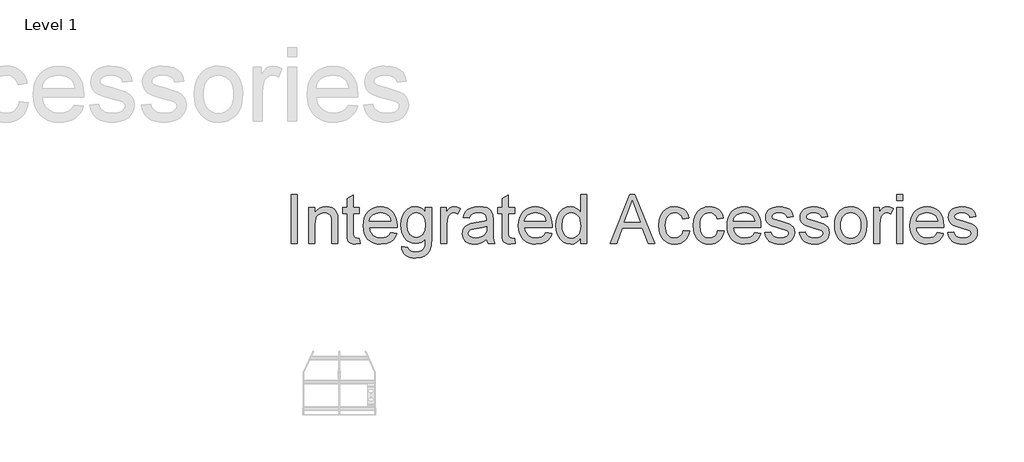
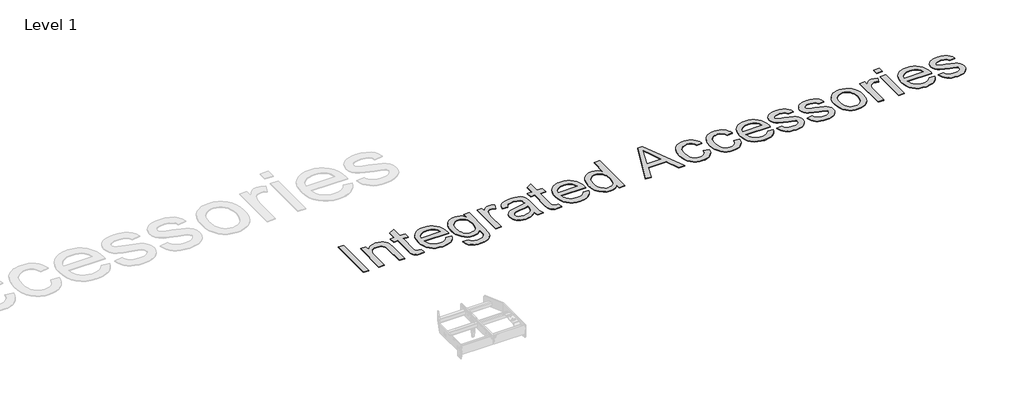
# One storey, part 15 of 31: 1 proxy.
"""IFC4 building model written with IfcOpenShell, lengths in millimetres."""

from ifc_helpers import new_model, si_unit, origin, origin_with_axes, place, context, project, spatial, polyline, outline, extrude, element, save

model = new_model("IFC4")

# Units and contexts
model_context = context("Model", 3, world=origin())
ifc_project = project(units=[si_unit("LENGTHUNIT", "METRE", prefix="MILLI")], contexts=[model_context])

# Site, building, storey
site = spatial("IfcSite", under=ifc_project)
building = spatial("IfcBuilding", under=site)
storey = spatial("IfcBuildingStorey", under=building, Name="Level 1", Elevation=0.0)

# Proxy
placement = place(None, origin())
element("IfcBuildingElementProxy", 1, Name="400mm Arial", ObjectType="400mm Arial", at=placement, inside=storey, context=model_context, shape_type="SweptSolid", body=[
    extrude(outline(polyline([(11176.305168, -13671.3757633), (11176.305168, -13269.5505227), (11226.5333231, -13269.5505227), (11226.5333231, -13671.3757633), (11176.305168, -13671.3757633)])), origin_with_axes(), (0.0, 0.0, 1.0), 5.0),
    extrude(outline(polyline([(11320.7111138, -13671.3757633), (11320.7111138, -13376.2853522), (11370.9392689, -13376.2853522), (11370.9392689, -13417.4881357), (11388.3891382, -13396.7150657), (11409.3461492, -13381.8771585), (11433.8103019, -13372.9744143), (11461.7815962, -13370.0068328), (11486.5400545, -13372.3980658), (11509.2138482, -13379.5717647), (11528.1229827, -13390.63275), (11541.5874637, -13404.6858422), (11550.7231999, -13421.6942532), (11556.6461001, -13441.6211946), (11559.2948504, -13490.1816179), (11559.2948504, -13671.3757633), (11509.0666954, -13671.3757633), (11509.0666954, -13496.9506466), (11507.6196928, -13470.9781778), (11503.2786853, -13452.5105016), (11495.2711205, -13439.2790125), (11482.8244464, -13429.0151049), (11466.8706305, -13422.4300171), (11448.3416407, -13420.2349879), (11418.9233438, -13425.1646066), (11393.8460545, -13439.9534629), (11383.8243358, -13452.0261237), (11376.6659653, -13468.5256311), (11372.370943, -13489.4519853), (11370.9392689, -13514.8051861), (11370.9392689, -13671.3757633), (11320.7111138, -13671.3757633)])), origin_with_axes(), (0.0, 0.0, 1.0), 5.0),
    extrude(outline(polyline([(11735.0933932, -13629.4862668), (11741.3719126, -13672.8472913), (11703.7988981, -13677.6542827), (11679.6903647, -13675.569618), (11661.7131979, -13669.3156241), (11649.0090063, -13659.6771158), (11640.7193987, -13647.4389081), (11636.157662, -13626.4205835), (11634.637083, -13590.4417243), (11634.637083, -13426.5135073), (11596.9659667, -13426.5135073), (11596.9659667, -13376.2853522), (11634.637083, -13376.2853522), (11634.637083, -13304.5728886), (11684.8652381, -13275.0442271), (11684.8652381, -13376.2853522), (11735.0933932, -13376.2853522), (11735.0933932, -13426.5135073), (11684.8652381, -13426.5135073), (11684.8652381, -13588.9701964), (11687.5139885, -13614.8690888), (11696.0979017, -13624.0416132), (11713.2166772, -13627.4261276), (11735.0933932, -13629.4862668)])), origin_with_axes(), (0.0, 0.0, 1.0), 5.0),
    extrude(outline(polyline([(11991.9240768, -13583.4764919), (12041.1712132, -13589.7550113), (12033.6204352, -13609.4796176), (12023.4270383, -13626.8620419), (12010.5910223, -13641.9022841), (11995.1123874, -13654.6003443), (11977.150549, -13664.6864423), (11956.8649226, -13671.8907981), (11909.3223061, -13677.6542827), (11878.1565697, -13675.1680135), (11850.3876105, -13667.7092061), (11826.0154283, -13655.2778603), (11805.0400232, -13637.8739763), (11788.1726337, -13615.9819319), (11776.1244984, -13590.0861051), (11768.8956172, -13560.1864959), (11766.4859901, -13526.2831044), (11768.9201426, -13491.2300816), (11776.2226002, -13460.3341254), (11788.3933629, -13433.5952357), (11805.4324307, -13411.0134126), (11826.3526535, -13393.0730339), (11850.1668813, -13380.2584778), (11876.8751141, -13372.5697441), (11906.477352, -13370.0068328), (11935.1261624, -13372.5636127), (11961.0342519, -13380.2339523), (11984.2016205, -13393.0178516), (12004.6282683, -13410.9153107), (12021.3025198, -13433.4480829), (12033.2126993, -13460.1379217), (12040.3588071, -13490.9848269), (12042.740843, -13525.9887988), (12042.4465374, -13539.5268562), (11816.7141452, -13539.5268562), (11819.6234786, -13559.5702936), (11825.408423, -13577.1243961), (11834.0689783, -13592.1891638), (11845.6051445, -13604.7645967), (11859.3792596, -13614.6790165), (11874.7536613, -13621.7607449), (11910.3033248, -13627.4261276), (11937.0360831, -13624.8019027), (11959.5504612, -13616.929228), (11977.8464591, -13603.3175942), (11991.9240768, -13583.4764919)]), holes=[polyline([(11816.7141452, -13489.2987011), (11992.5126879, -13489.2987011), (11985.7191338, -13462.7621466), (11972.4018055, -13443.7794356), (11958.7043326, -13433.4787397), (11943.1183987, -13426.1210998), (11925.644004, -13421.7065159), (11906.2811483, -13420.2349879), (11872.423742, -13424.9316147), (11844.4279222, -13439.0214951), (11824.9669646, -13460.9840502), (11816.7141452, -13489.2987011)])]), origin_with_axes(), (0.0, 0.0, 1.0), 5.0),
    extrude(outline(polyline([(12080.4119593, -13696.4898408), (12130.6401144, -13702.7683602), (12136.1828698, -13718.4646587), (12146.9250241, -13729.2558639), (12168.0414506, -13737.6435733), (12195.6816512, -13740.4394765), (12225.1612617, -13737.2756914), (12247.0870286, -13727.7843359), (12262.2928177, -13712.5785467), (12271.612495, -13692.2714606), (12275.0460602, -13633.704647), (12258.3319549, -13650.1857604), (12239.6803378, -13661.9579842), (12219.0912088, -13669.0213185), (12196.5645679, -13671.3757633), (12169.0255349, -13668.6350424), (12144.7790458, -13660.4128798), (12123.8251004, -13646.7092755), (12106.163699, -13627.5242295), (12092.1504607, -13604.5070793), (12082.1410047, -13579.3071626), (12076.1353311, -13551.9244794), (12074.1334399, -13522.3590298), (12077.7264208, -13481.8061712), (12088.5053632, -13444.5151996), (12106.0901226, -13412.9141362), (12130.1005541, -13389.4310022), (12159.7150548, -13374.8628752), (12194.1120213, -13370.0068328), (12217.6012867, -13372.7536851), (12238.9200483, -13380.9942418), (12258.0683062, -13394.7285029), (12275.0460602, -13413.9564685), (12275.0460602, -13376.2853522), (12325.2742153, -13376.2853522), (12325.2742153, -13631.0558966), (12321.84065, -13689.8802276), (12311.5399542, -13728.6182017), (12293.7957793, -13754.3086277), (12268.0317769, -13773.9903145), (12234.8120327, -13786.4983023), (12194.7006325, -13790.6676316), (12170.0923927, -13789.1991693), (12147.9673564, -13784.7937824), (12128.3255235, -13777.4514709), (12111.1668941, -13767.1722348), (12097.30694, -13753.9438114), (12087.5611328, -13737.7539379), (12081.9294726, -13718.6026144), (12080.4119593, -13696.4898408)]), holes=[polyline([(12124.361595, -13518.9254645), (12129.7204094, -13564.996553), (12136.4189274, -13582.633429), (12145.7968526, -13596.6711928), (12157.1981288, -13607.3796245), (12169.9666997, -13615.0285044), (12184.1025654, -13619.6178322), (12199.6057258, -13621.1476082), (12214.955602, -13619.6270293), (12229.0240226, -13615.0652926), (12241.8109877, -13607.462398), (12253.3164971, -13596.8183456), (12262.823181, -13582.9185375), (12269.6136694, -13565.548376), (12275.0460602, -13520.3969925), (12269.4542539, -13476.852027), (12262.464496, -13459.650478), (12252.6788349, -13445.4962182), (12240.9250052, -13434.44443), (12228.0307413, -13426.5502955), (12213.9960431, -13421.8138148), (12198.8209108, -13420.2349879), (12183.9002303, -13421.7892893), (12170.138378, -13426.4521936), (12146.0911582, -13445.1038108), (12136.5844743, -13459.0434727), (12129.7939858, -13475.9936356), (12124.361595, -13518.9254645)])]), origin_with_axes(), (0.0, 0.0, 1.0), 5.0),
    extrude(outline(polyline([(12400.6164479, -13671.3757633), (12400.6164479, -13376.2853522), (12444.5660836, -13376.2853522), (12444.5660836, -13419.9406823), (12460.8019423, -13394.630401), (12475.7624768, -13379.7189175), (12490.7720622, -13372.434854), (12507.1550737, -13370.0068328), (12532.1710494, -13373.8818565), (12557.5794325, -13385.5069276), (12540.8040136, -13430.5356838), (12523.1456778, -13422.8101619), (12505.487342, -13420.2349879), (12490.4900194, -13422.71206), (12477.086852, -13430.1432763), (12466.2588586, -13441.9645511), (12458.9870578, -13457.6117986), (12452.8802167, -13485.6689321), (12450.844603, -13516.2767141), (12450.844603, -13671.3757633), (12400.6164479, -13671.3757633)])), origin_with_axes(), (0.0, 0.0, 1.0), 5.0),
    extrude(outline(polyline([(12777.327611, -13633.704647), (12753.3294422, -13654.2815132), (12728.6200348, -13667.7459943), (12702.6353032, -13675.1772106), (12674.8111617, -13677.6542827), (12652.447002, -13676.1643606), (12632.835826, -13671.6945943), (12615.9776336, -13664.2449839), (12601.8724248, -13653.8155294), (12590.7347974, -13641.0684182), (12582.7793492, -13626.6658381), (12578.0060803, -13610.607789), (12576.4149907, -13592.894271), (12578.8184864, -13572.0721501), (12586.0289735, -13553.1630155), (12597.1512725, -13536.9762077), (12611.2902038, -13524.3210671), (12627.9062073, -13514.7561352), (12646.4597226, -13507.8399537), (12689.9188489, -13500.2861101), (12741.2751755, -13492.339859), (12777.0333054, -13483.0201818), (12777.327611, -13471.8365691), (12773.8695202, -13449.4202929), (12763.495248, -13434.754064), (12740.2941568, -13423.8647569), (12707.9695922, -13420.2349879), (12678.0485232, -13422.6507463), (12657.1528259, -13429.8980216), (12642.90353, -13443.301189), (12632.9216652, -13464.1846236), (12582.6935101, -13457.9061042), (12591.4123134, -13430.4375819), (12604.4230733, -13408.8551715), (12622.9398003, -13392.3495327), (12648.1765052, -13380.111325), (12679.0418046, -13372.5329559), (12714.4443153, -13370.0068328), (12748.3998234, -13372.2386503), (12775.3165228, -13378.9341026), (12795.6113462, -13389.0018065), (12809.7012266, -13401.3503788), (12819.0454292, -13416.6174816), (12825.1032194, -13435.440777), (12827.5557661, -13479.3904127), (12827.5557661, -13541.881301), (12830.1064146, -13629.1429102), (12840.1128048, -13671.3757633), (12789.8846498, -13671.3757633), (12781.8402968, -13653.9136312), (12777.327611, -13633.704647)]), holes=[polyline([(12777.327611, -13533.2483368), (12743.5805693, -13541.6115209), (12696.2954702, -13548.6503297), (12653.0815985, -13556.7927845), (12641.8366722, -13562.3600654), (12633.5102763, -13570.0365363), (12628.3599284, -13579.2335862), (12626.6431458, -13589.3626038), (12630.3832794, -13604.2986128), (12641.6036802, -13616.5368205), (12660.0590937, -13624.7038008), (12685.504265, -13627.4261276), (12712.482278, -13624.421758), (12736.3210313, -13615.4086491), (12755.6470987, -13602.1281091), (12769.0870543, -13586.321446), (12775.0467426, -13570.0365363), (12777.0333054, -13547.4731073), (12777.327611, -13533.2483368)])]), origin_with_axes(), (0.0, 0.0, 1.0), 5.0),
    extrude(outline(polyline([(13003.3543088, -13629.4862668), (13009.6328282, -13672.8472913), (12972.0598138, -13677.6542827), (12947.9512804, -13675.569618), (12929.9741135, -13669.3156241), (12917.269922, -13659.6771158), (12908.9803143, -13647.4389081), (12904.4185776, -13626.4205835), (12902.8979987, -13590.4417243), (12902.8979987, -13426.5135073), (12865.2268824, -13426.5135073), (12865.2268824, -13376.2853522), (12902.8979987, -13376.2853522), (12902.8979987, -13304.5728886), (12953.1261538, -13275.0442271), (12953.1261538, -13376.2853522), (13003.3543088, -13376.2853522), (13003.3543088, -13426.5135073), (12953.1261538, -13426.5135073), (12953.1261538, -13588.9701964), (12955.7749041, -13614.8690888), (12964.3588173, -13624.0416132), (12981.4775928, -13627.4261276), (13003.3543088, -13629.4862668)])), origin_with_axes(), (0.0, 0.0, 1.0), 5.0),
    extrude(outline(polyline([(13260.1849924, -13583.4764919), (13309.4321288, -13589.7550113), (13301.8813509, -13609.4796176), (13291.6879539, -13626.8620419), (13278.851938, -13641.9022841), (13263.373303, -13654.6003443), (13245.4114646, -13664.6864423), (13225.1258383, -13671.8907981), (13177.5832217, -13677.6542827), (13146.4174854, -13675.1680135), (13118.6485261, -13667.7092061), (13094.2763439, -13655.2778603), (13073.3009388, -13637.8739763), (13056.4335494, -13615.9819319), (13044.385414, -13590.0861051), (13037.1565328, -13560.1864959), (13034.7469057, -13526.2831044), (13037.1810583, -13491.2300816), (13044.4835159, -13460.3341254), (13056.6542786, -13433.5952357), (13073.6933463, -13411.0134126), (13094.6135691, -13393.0730339), (13118.4277969, -13380.2584778), (13145.1360298, -13372.5697441), (13174.7382676, -13370.0068328), (13203.387078, -13372.5636127), (13229.2951675, -13380.2339523), (13252.4625362, -13393.0178516), (13272.889184, -13410.9153107), (13289.5634354, -13433.4480829), (13301.473615, -13460.1379217), (13308.6197227, -13490.9848269), (13311.0017587, -13525.9887988), (13310.7074531, -13539.5268562), (13084.9750608, -13539.5268562), (13087.8843943, -13559.5702936), (13093.6693386, -13577.1243961), (13102.3298939, -13592.1891638), (13113.8660602, -13604.7645967), (13127.6401752, -13614.6790165), (13143.0145769, -13621.7607449), (13178.5642404, -13627.4261276), (13205.2969987, -13624.8019027), (13227.8113768, -13616.929228), (13246.1073747, -13603.3175942), (13260.1849924, -13583.4764919)]), holes=[polyline([(13084.9750608, -13489.2987011), (13260.7736036, -13489.2987011), (13253.9800494, -13462.7621466), (13240.6627212, -13443.7794356), (13226.9652482, -13433.4787397), (13211.3793144, -13426.1210998), (13193.9049196, -13421.7065159), (13174.5420639, -13420.2349879), (13140.6846576, -13424.9316147), (13112.6888378, -13439.0214951), (13093.2278802, -13460.9840502), (13084.9750608, -13489.2987011)])]), origin_with_axes(), (0.0, 0.0, 1.0), 5.0),
    extrude(outline(polyline([(13543.3069759, -13671.3757633), (13543.3069759, -13623.9925623), (13528.2789964, -13647.469565), (13510.074969, -13664.2388526), (13488.6948937, -13674.3004251), (13464.1387705, -13677.6542827), (13431.6670531, -13672.7982403), (13401.9421879, -13658.2301133), (13376.7790594, -13634.9677085), (13357.9925522, -13604.0288327), (13346.2939047, -13566.6642847), (13342.3943556, -13524.1248633), (13345.9873364, -13482.1127395), (13356.7662789, -13444.1718431), (13374.7189202, -13412.4604151), (13399.8329978, -13389.1366966), (13430.2077878, -13374.7892988), (13463.9425668, -13370.0068328), (13488.5170841, -13373.4281354), (13510.2466472, -13383.6920431), (13528.6652725, -13399.4251297), (13543.3069759, -13419.2539693), (13543.3069759, -13269.5505227), (13593.535131, -13269.5505227), (13593.535131, -13671.3757633), (13543.3069759, -13671.3757633)]), holes=[polyline([(13392.6225107, -13523.9286596), (13394.0388563, -13548.2855134), (13398.2878934, -13569.362086), (13405.3696218, -13587.1583775), (13415.2840416, -13601.6743879), (13439.9811862, -13620.9881927), (13453.8564688, -13625.8166439), (13468.7495582, -13627.4261276), (13483.7131583, -13625.8902203), (13497.5056675, -13621.2824983), (13521.5774127, -13602.8516103), (13531.0840966, -13588.9426052), (13537.8745851, -13571.7901072), (13543.3069759, -13527.7546324), (13537.7764832, -13479.6111419), (13530.8633674, -13461.0760207), (13521.1850052, -13446.2319822), (13509.4832921, -13434.8582972), (13496.5001234, -13426.7342365), (13482.235499, -13421.8598001), (13466.689419, -13420.2349879), (13451.502024, -13421.7954207), (13437.6267414, -13426.4767191), (13425.0635713, -13434.2788831), (13413.8125136, -13445.2019126), (13404.5418873, -13459.4849311), (13397.9200114, -13477.3670618), (13392.6225107, -13523.9286596)])]), origin_with_axes(), (0.0, 0.0, 1.0), 5.0),
    extrude(outline(polyline([(13785.4223796, -13671.3757633), (13945.8189295, -13269.5505227), (13988.5913428, -13269.5505227), (14148.8897909, -13671.3757633), (14095.8166817, -13671.3757633), (14049.9050087, -13545.8053756), (13884.3090599, -13545.8053756), (13838.3973869, -13671.3757633), (13785.4223796, -13671.3757633)]), holes=[polyline([(13902.7522106, -13495.5772205), (14031.5599599, -13495.5772205), (13995.2622697, -13396.7886421), (13967.1070343, -13319.7786778), (13942.0910587, -13388.1556779), (13902.7522106, -13495.5772205)])]), origin_with_axes(), (0.0, 0.0, 1.0), 5.0),
    extrude(outline(polyline([(14384.6285734, -13564.6409337), (14434.8567285, -13570.9194531), (14429.3936808, -13594.6202507), (14420.8526872, -13615.5925901), (14409.2337475, -13633.8364714), (14394.5368618, -13649.3518945), (14377.3812981, -13661.7341893), (14358.3863244, -13670.5786856), (14337.5519407, -13675.8853834), (14314.8781471, -13677.6542827), (14286.7075833, -13675.1864076), (14261.4494187, -13667.7827825), (14239.1036531, -13655.4434072), (14219.6702867, -13638.1682819), (14203.9402658, -13616.2823688), (14192.7045365, -13590.1106305), (14185.9630989, -13559.653067), (14183.7159531, -13524.9096783), (14187.5541886, -13480.2120159), (14199.068895, -13441.4740418), (14218.4440134, -13410.1918094), (14245.8634848, -13387.8613723), (14278.666296, -13374.4704677), (14314.191434, -13370.0068328), (14336.4758859, -13371.5396745), (14356.6327536, -13376.1381994), (14374.662037, -13383.8024077), (14390.5637362, -13394.5322992), (14404.0680711, -13408.0826193), (14414.9052616, -13424.2081135), (14423.0753076, -13442.9087815), (14428.5782091, -13464.1846236), (14378.350054, -13470.463143), (14369.2388433, -13448.5496388), (14355.050861, -13432.8410776), (14336.5709221, -13423.3865103), (14314.5838415, -13420.2349879), (14297.5171826, -13421.7862237), (14282.1243868, -13426.4399309), (14268.4054541, -13434.1961096), (14256.3603844, -13445.0547599), (14246.5532635, -13459.2672676), (14239.5481772, -13477.0850189), (14235.3451254, -13498.5080138), (14233.9441082, -13523.5362522), (14239.4255499, -13570.6128848), (14246.277352, -13588.5501978), (14255.8698751, -13602.7535084), (14267.6758214, -13613.5477793), (14281.1678936, -13621.2579728), (14296.3460916, -13625.8840889), (14313.2104154, -13627.4261276), (14339.2196724, -13623.5756294), (14360.5445654, -13612.0241347), (14376.0569229, -13592.4773381), (14384.6285734, -13564.6409337)])), origin_with_axes(), (0.0, 0.0, 1.0), 5.0),
    extrude(outline(polyline([(14667.1619457, -13564.6409337), (14717.3901008, -13570.9194531), (14711.9270531, -13594.6202507), (14703.3860595, -13615.5925901), (14691.7671198, -13633.8364714), (14677.0702341, -13649.3518945), (14659.9146704, -13661.7341893), (14640.9196967, -13670.5786856), (14620.085313, -13675.8853834), (14597.4115194, -13677.6542827), (14569.2409556, -13675.1864076), (14543.982791, -13667.7827825), (14521.6370254, -13655.4434072), (14502.203659, -13638.1682819), (14486.4736381, -13616.2823688), (14475.2379088, -13590.1106305), (14468.4964712, -13559.653067), (14466.2493254, -13524.9096783), (14470.0875609, -13480.2120159), (14481.6022673, -13441.4740418), (14500.9773857, -13410.1918094), (14528.3968571, -13387.8613723), (14561.1996683, -13374.4704677), (14596.7248063, -13370.0068328), (14619.0092582, -13371.5396745), (14639.1661258, -13376.1381994), (14657.1954093, -13383.8024077), (14673.0971085, -13394.5322992), (14686.6014434, -13408.0826193), (14697.4386339, -13424.2081135), (14705.6086799, -13442.9087815), (14711.1115814, -13464.1846236), (14660.8834263, -13470.463143), (14651.7722155, -13448.5496388), (14637.5842333, -13432.8410776), (14619.1042944, -13423.3865103), (14597.1172138, -13420.2349879), (14580.0505549, -13421.7862237), (14564.6577591, -13426.4399309), (14550.9388264, -13434.1961096), (14538.8937567, -13445.0547599), (14529.0866358, -13459.2672676), (14522.0815495, -13477.0850189), (14517.8784977, -13498.5080138), (14516.4774805, -13523.5362522), (14521.9589222, -13570.6128848), (14528.8107243, -13588.5501978), (14538.4032474, -13602.7535084), (14550.2091937, -13613.5477793), (14563.7012659, -13621.2579728), (14578.8794639, -13625.8840889), (14595.7437877, -13627.4261276), (14621.7530447, -13623.5756294), (14643.0779377, -13612.0241347), (14658.5902952, -13592.4773381), (14667.1619457, -13564.6409337)])), origin_with_axes(), (0.0, 0.0, 1.0), 5.0),
    extrude(outline(polyline([(14967.9422649, -13583.4764919), (15017.1894014, -13589.7550113), (15009.6386234, -13609.4796176), (14999.4452265, -13626.8620419), (14986.6092105, -13641.9022841), (14971.1305756, -13654.6003443), (14953.1687371, -13664.6864423), (14932.8831108, -13671.8907981), (14885.3404943, -13677.6542827), (14854.1747579, -13675.1680135), (14826.4057987, -13667.7092061), (14802.0336165, -13655.2778603), (14781.0582114, -13637.8739763), (14764.1908219, -13615.9819319), (14752.1426866, -13590.0861051), (14744.9138054, -13560.1864959), (14742.5041783, -13526.2831044), (14744.9383308, -13491.2300816), (14752.2407884, -13460.3341254), (14764.4115511, -13433.5952357), (14781.4506188, -13411.0134126), (14802.3708416, -13393.0730339), (14826.1850695, -13380.2584778), (14852.8933023, -13372.5697441), (14882.4955402, -13370.0068328), (14911.1443506, -13372.5636127), (14937.0524401, -13380.2339523), (14960.2198087, -13393.0178516), (14980.6464565, -13410.9153107), (14997.3207079, -13433.4480829), (15009.2308875, -13460.1379217), (15016.3769953, -13490.9848269), (15018.7590312, -13525.9887988), (15018.4647256, -13539.5268562), (14792.7323334, -13539.5268562), (14795.6416668, -13559.5702936), (14801.4266112, -13577.1243961), (14810.0871665, -13592.1891638), (14821.6233327, -13604.7645967), (14835.3974478, -13614.6790165), (14850.7718495, -13621.7607449), (14886.3215129, -13627.4261276), (14913.0542713, -13624.8019027), (14935.5686494, -13616.929228), (14953.8646473, -13603.3175942), (14967.9422649, -13583.4764919)]), holes=[polyline([(14792.7323334, -13489.2987011), (14968.5308761, -13489.2987011), (14961.737322, -13462.7621466), (14948.4199937, -13443.7794356), (14934.7225208, -13433.4787397), (14919.1365869, -13426.1210998), (14901.6621921, -13421.7065159), (14882.2993365, -13420.2349879), (14848.4419302, -13424.9316147), (14820.4461103, -13439.0214951), (14800.9851528, -13460.9840502), (14792.7323334, -13489.2987011)])]), origin_with_axes(), (0.0, 0.0, 1.0), 5.0),
    extrude(outline(polyline([(15050.1516281, -13583.4764919), (15100.3797832, -13577.1979725), (15108.3015088, -13598.682281), (15123.6299253, -13614.4766814), (15146.4631345, -13624.188766), (15176.8992382, -13627.4261276), (15206.9674599, -13624.4585462), (15228.1084119, -13615.5558019), (15240.6163998, -13602.6554066), (15244.785729, -13587.6948721), (15240.5918743, -13574.8925787), (15228.0103101, -13565.1314431), (15176.310627, -13550.8085707), (15100.6740888, -13526.2340535), (15081.5319623, -13513.8854811), (15067.6628111, -13497.5392578), (15059.2383134, -13478.2377158), (15056.4301475, -13457.0231874), (15058.6864904, -13437.5622299), (15065.4555191, -13419.5973258), (15076.124097, -13403.8397137), (15090.0790873, -13391.000632), (15122.0112445, -13376.1381994), (15142.8946791, -13371.5396745), (15165.2251162, -13370.0068328), (15197.9175629, -13372.4716422), (15226.3425783, -13379.8660703), (15249.200313, -13391.4666159), (15265.190917, -13406.5497777), (15275.7859185, -13426.2314644), (15282.4568453, -13451.6275848), (15232.2286903, -13457.9061042), (15225.8888572, -13442.0994412), (15213.3440812, -13430.1923272), (15194.4717348, -13422.7243227), (15169.1491908, -13420.2349879), (15140.3072424, -13422.6139581), (15121.0792768, -13429.7508689), (15110.2635461, -13440.0515647), (15106.6583026, -13451.9218904), (15112.6425164, -13466.5390684), (15131.3799727, -13477.6245792), (15174.6428953, -13488.3176825), (15248.3664471, -13511.960232), (15267.8396674, -13523.266472), (15282.6039981, -13538.7420413), (15291.9114126, -13558.4359908), (15295.0138841, -13582.3973714), (15291.3718524, -13607.1680924), (15280.4457571, -13630.4672854), (15262.6525313, -13650.4678032), (15238.4091078, -13665.3424986), (15209.125701, -13674.5763366), (15176.2125251, -13677.6542827), (15149.1793299, -13676.170492), (15125.5674371, -13671.7191198), (15105.376847, -13664.3001662), (15088.6075594, -13653.9136312), (15074.9100864, -13640.6085658), (15063.9349402, -13624.4340207), (15055.6821208, -13605.3899961), (15050.1516281, -13583.4764919)])), origin_with_axes(), (0.0, 0.0, 1.0), 5.0),
    extrude(outline(polyline([(15332.6850004, -13583.4764919), (15382.9131555, -13577.1979725), (15390.8348811, -13598.682281), (15406.1632976, -13614.4766814), (15428.9965068, -13624.188766), (15459.4326105, -13627.4261276), (15489.5008322, -13624.4585462), (15510.6417842, -13615.5558019), (15523.1497721, -13602.6554066), (15527.3191013, -13587.6948721), (15523.1252466, -13574.8925787), (15510.5436824, -13565.1314431), (15458.8439993, -13550.8085707), (15383.2074611, -13526.2340535), (15364.0653346, -13513.8854811), (15350.1961834, -13497.5392578), (15341.7716857, -13478.2377158), (15338.9635198, -13457.0231874), (15341.2198627, -13437.5622299), (15347.9888914, -13419.5973258), (15358.6574693, -13403.8397137), (15372.6124596, -13391.000632), (15404.5446168, -13376.1381994), (15425.4280514, -13371.5396745), (15447.7584885, -13370.0068328), (15480.4509352, -13372.4716422), (15508.8759506, -13379.8660703), (15531.7336853, -13391.4666159), (15547.7242893, -13406.5497777), (15558.3192908, -13426.2314644), (15564.9902176, -13451.6275848), (15514.7620626, -13457.9061042), (15508.4222295, -13442.0994412), (15495.8774535, -13430.1923272), (15477.0051071, -13422.7243227), (15451.6825631, -13420.2349879), (15422.8406147, -13422.6139581), (15403.6126491, -13429.7508689), (15392.7969184, -13440.0515647), (15389.1916749, -13451.9218904), (15395.1758887, -13466.5390684), (15413.913345, -13477.6245792), (15457.1762676, -13488.3176825), (15530.8998194, -13511.960232), (15550.3730397, -13523.266472), (15565.1373704, -13538.7420413), (15574.4447849, -13558.4359908), (15577.5472564, -13582.3973714), (15573.9052247, -13607.1680924), (15562.9791294, -13630.4672854), (15545.1859036, -13650.4678032), (15520.9424801, -13665.3424986), (15491.6590733, -13674.5763366), (15458.7458974, -13677.6542827), (15431.7127022, -13676.170492), (15408.1008094, -13671.7191198), (15387.9102193, -13664.3001662), (15371.1409317, -13653.9136312), (15357.4434587, -13640.6085658), (15346.4683125, -13624.4340207), (15338.2154931, -13605.3899961), (15332.6850004, -13583.4764919)])), origin_with_axes(), (0.0, 0.0, 1.0), 5.0),
    extrude(outline(polyline([(15621.4968921, -13523.8305578), (15624.2130875, -13485.6137498), (15632.3616737, -13452.6821799), (15645.9426507, -13425.0358479), (15664.9560185, -13402.674754), (15684.0981449, -13388.3825385), (15705.2268342, -13378.1738131), (15728.3420862, -13372.0485779), (15753.443901, -13370.0068328), (15781.1546123, -13372.493102), (15806.2104419, -13379.9519094), (15828.6113897, -13392.3832552), (15848.3574558, -13409.7871392), (15864.4737529, -13431.5749504), (15875.9853936, -13457.1580775), (15882.8923781, -13486.5365205), (15885.1947062, -13519.7102794), (15881.1234788, -13570.4534693), (15868.9097966, -13609.0810788), (15848.9092788, -13638.0088663), (15821.4775447, -13659.6525904), (15788.8954626, -13673.1538596), (15753.443901, -13677.6542827), (15725.3285196, -13675.1772106), (15700.0396981, -13667.7459943), (15677.5774366, -13655.3606338), (15657.9417351, -13638.0211291), (15641.9971163, -13616.0217857), (15630.6081028, -13589.6569094), (15623.7746948, -13558.9265001), (15621.4968921, -13523.8305578)]), holes=[polyline([(15671.7250472, -13523.7324559), (15673.1781811, -13548.095441), (15677.5375827, -13569.1904078), (15684.8032521, -13587.0173561), (15694.9751893, -13601.5762861), (15707.348287, -13612.8855917), (15721.2174383, -13620.9636672), (15736.5826429, -13625.8105125), (15753.443901, -13627.4261276), (15770.21932, -13625.8013154), (15785.523211, -13620.926879), (15799.355574, -13612.8028183), (15811.7164091, -13601.4291333), (15821.8883462, -13586.7261162), (15829.1540156, -13568.6140593), (15833.5134173, -13547.0929626), (15834.9665512, -13522.162826), (15833.5042202, -13498.5723931), (15829.1172274, -13478.0292494), (15821.8055728, -13460.5333948), (15811.5692563, -13446.0848294), (15799.162436, -13434.7755238), (15785.33927, -13426.6974483), (15770.0997584, -13421.850603), (15753.443901, -13420.2349879), (15736.5826429, -13421.8444716), (15721.2174383, -13426.6729228), (15707.348287, -13434.7203415), (15694.9751893, -13445.9867276), (15684.8032521, -13460.502738), (15677.5375827, -13478.2990295), (15673.1781811, -13499.3756021), (15671.7250472, -13523.7324559)])]), origin_with_axes(), (0.0, 0.0, 1.0), 5.0),
    extrude(outline(polyline([(15941.7013807, -13671.3757633), (15941.7013807, -13376.2853522), (15985.6510164, -13376.2853522), (15985.6510164, -13419.9406823), (16001.8868751, -13394.630401), (16016.8474096, -13379.7189175), (16031.856995, -13372.434854), (16048.2400065, -13370.0068328), (16073.2559822, -13373.8818565), (16098.6643653, -13385.5069276), (16081.8889463, -13430.5356838), (16064.2306106, -13422.8101619), (16046.5722748, -13420.2349879), (16031.5749521, -13422.71206), (16018.1717848, -13430.1432763), (16007.3437914, -13441.9645511), (16000.0719906, -13457.6117986), (15993.9651495, -13485.6689321), (15991.9295358, -13516.2767141), (15991.9295358, -13671.3757633), (15941.7013807, -13671.3757633)])), origin_with_axes(), (0.0, 0.0, 1.0), 5.0),
    extrude(outline(polyline([(16130.0569622, -13319.7786778), (16130.0569622, -13269.5505227), (16180.2851173, -13269.5505227), (16180.2851173, -13319.7786778), (16130.0569622, -13319.7786778)])), origin_with_axes(), (0.0, 0.0, 1.0), 5.0),
    extrude(outline(polyline([(16130.0569622, -13671.3757633), (16130.0569622, -13376.2853522), (16180.2851173, -13376.2853522), (16180.2851173, -13671.3757633), (16130.0569622, -13671.3757633)])), origin_with_axes(), (0.0, 0.0, 1.0), 5.0),
    extrude(outline(polyline([(16462.2298784, -13583.4764919), (16511.4770148, -13589.7550113), (16503.9262369, -13609.4796176), (16493.7328399, -13626.8620419), (16480.896824, -13641.9022841), (16465.418189, -13654.6003443), (16447.4563506, -13664.6864423), (16427.1707243, -13671.8907981), (16379.6281078, -13677.6542827), (16348.4623714, -13675.1680135), (16320.6934121, -13667.7092061), (16296.32123, -13655.2778603), (16275.3458249, -13637.8739763), (16258.4784354, -13615.9819319), (16246.4303, -13590.0861051), (16239.2014188, -13560.1864959), (16236.7917918, -13526.2831044), (16239.2259443, -13491.2300816), (16246.5284019, -13460.3341254), (16258.6991646, -13433.5952357), (16275.7382323, -13411.0134126), (16296.6584551, -13393.0730339), (16320.4726829, -13380.2584778), (16347.1809158, -13372.5697441), (16376.7831537, -13370.0068328), (16405.431964, -13372.5636127), (16431.3400536, -13380.2339523), (16454.5074222, -13393.0178516), (16474.93407, -13410.9153107), (16491.6083214, -13433.4480829), (16503.518501, -13460.1379217), (16510.6646088, -13490.9848269), (16513.0466447, -13525.9887988), (16512.7523391, -13539.5268562), (16287.0199468, -13539.5268562), (16289.9292803, -13559.5702936), (16295.7142247, -13577.1243961), (16304.37478, -13592.1891638), (16315.9109462, -13604.7645967), (16329.6850612, -13614.6790165), (16345.0594629, -13621.7607449), (16380.6091264, -13627.4261276), (16407.3418847, -13624.8019027), (16429.8562628, -13616.929228), (16448.1522607, -13603.3175942), (16462.2298784, -13583.4764919)]), holes=[polyline([(16287.0199468, -13489.2987011), (16462.8184896, -13489.2987011), (16456.0249354, -13462.7621466), (16442.7076072, -13443.7794356), (16429.0101342, -13433.4787397), (16413.4242004, -13426.1210998), (16395.9498056, -13421.7065159), (16376.5869499, -13420.2349879), (16342.7295436, -13424.9316147), (16314.7337238, -13439.0214951), (16295.2727663, -13460.9840502), (16287.0199468, -13489.2987011)])]), origin_with_axes(), (0.0, 0.0, 1.0), 5.0),
    extrude(outline(polyline([(16544.4392416, -13583.4764919), (16594.6673967, -13577.1979725), (16602.5891223, -13598.682281), (16617.9175388, -13614.4766814), (16640.7507479, -13624.188766), (16671.1868517, -13627.4261276), (16701.2550734, -13624.4585462), (16722.3960254, -13615.5558019), (16734.9040132, -13602.6554066), (16739.0733425, -13587.6948721), (16734.8794878, -13574.8925787), (16722.2979235, -13565.1314431), (16670.5982405, -13550.8085707), (16594.9617023, -13526.2340535), (16575.8195758, -13513.8854811), (16561.9504246, -13497.5392578), (16553.5259269, -13478.2377158), (16550.717761, -13457.0231874), (16552.9741039, -13437.5622299), (16559.7431326, -13419.5973258), (16570.4117105, -13403.8397137), (16584.3667008, -13391.000632), (16616.298858, -13376.1381994), (16637.1822926, -13371.5396745), (16659.5127297, -13370.0068328), (16692.2051763, -13372.4716422), (16720.6301918, -13379.8660703), (16743.4879265, -13391.4666159), (16759.4785305, -13406.5497777), (16770.073532, -13426.2314644), (16776.7444588, -13451.6275848), (16726.5163037, -13457.9061042), (16720.1764707, -13442.0994412), (16707.6316947, -13430.1923272), (16688.7593483, -13422.7243227), (16663.4368043, -13420.2349879), (16634.5948559, -13422.6139581), (16615.3668903, -13429.7508689), (16604.5511596, -13440.0515647), (16600.9459161, -13451.9218904), (16606.9301298, -13466.5390684), (16625.6675861, -13477.6245792), (16668.9305088, -13488.3176825), (16742.6540606, -13511.960232), (16762.1272809, -13523.266472), (16776.8916116, -13538.7420413), (16786.1990261, -13558.4359908), (16789.3014976, -13582.3973714), (16785.6594658, -13607.1680924), (16774.7333706, -13630.4672854), (16756.9401447, -13650.4678032), (16732.6967213, -13665.3424986), (16703.4133145, -13674.5763366), (16670.5001386, -13677.6542827), (16643.4669433, -13676.170492), (16619.8550506, -13671.7191198), (16599.6644604, -13664.3001662), (16582.8951728, -13653.9136312), (16569.1976999, -13640.6085658), (16558.2225537, -13624.4340207), (16549.9697343, -13605.3899961), (16544.4392416, -13583.4764919)])), origin_with_axes(), (0.0, 0.0, 1.0), 5.0),
])

save(model, "model.ifc")
